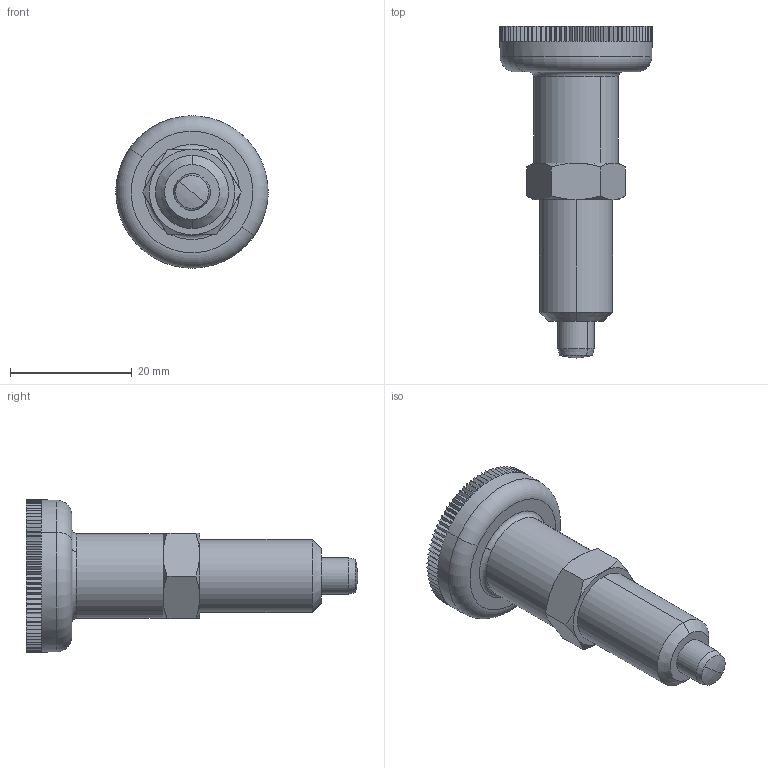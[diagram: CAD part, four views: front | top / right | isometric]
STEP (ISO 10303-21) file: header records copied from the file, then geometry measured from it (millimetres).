
FILE_DESCRIPTION (( 'STEP AP203' ), '1' );
FILE_NAME ('32700.W0406.step', '2011-03-28T12:00:24', ( 'Wixroyd' ), ( 'Wixroyd' ), 'SwSTEP 2.0', 'SolidWorks 2009', '' );
FILE_SCHEMA (( 'CONFIG_CONTROL_DESIGN' ));
Length unit declared in the file: millimetre
Products named in the file (5): Part3_3270.W406; Part4_3270.W406; 32700.W0406; Part1_3270.W406; Part2_3270.W406
Assembly tree (4 placements, depth 2):
  32700.W0406
    Part2_3270.W406
    Part1_3270.W406
    Part3_3270.W406
    Part4_3270.W406
Bounding box: 25 x 54.5 x 25 mm (x, y, z)
Volume: 8237.2 mm3; surface area: 5441.1 mm2
Topology: 4 solids, 4 shells, 435 faces, 1052 edges, 634 vertices
Faces by surface type: plane 381, cylinder 26, cone 20, sphere 4, torus 4
Entity records: 13015 total; most frequent: CARTESIAN_POINT 2272, DIRECTION 2150, ORIENTED_EDGE 2104, EDGE_CURVE 1052, VECTOR 790, LINE 790, AXIS2_PLACEMENT_3D 680, VERTEX_POINT 634
